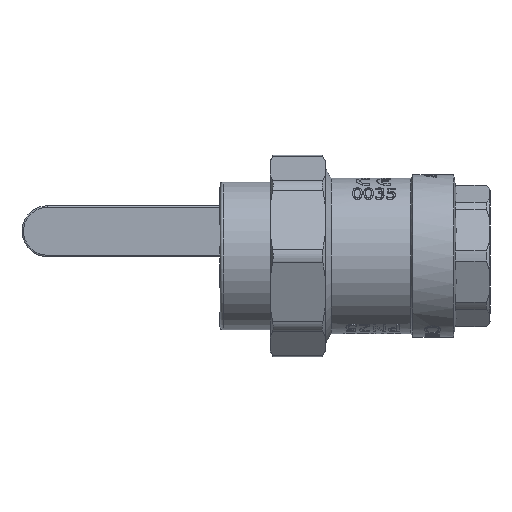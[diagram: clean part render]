
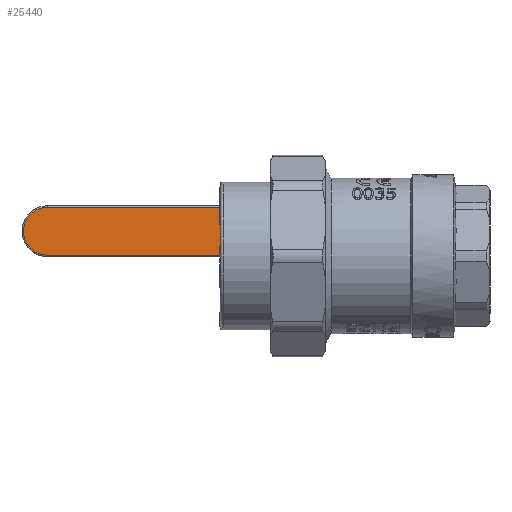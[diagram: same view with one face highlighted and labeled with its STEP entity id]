
A CAD part, front view. The second image highlights one B-rep face of the part: STEP entity #25440.
In plain terms, the highlighted planar face has unit normal (0, -1, 0).
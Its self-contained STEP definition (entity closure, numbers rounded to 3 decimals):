
#1865=CIRCLE('',#26738,8.125);
#3417=FACE_OUTER_BOUND('',#4897,.T.);
#4897=EDGE_LOOP('',(#22445,#22446,#22447,#22448));
#7206=LINE('',#49129,#9490);
#7208=LINE('',#49141,#9492);
#7228=LINE('',#49215,#9512);
#9490=VECTOR('',#31433,10.);
#9492=VECTOR('',#31447,10.);
#9512=VECTOR('',#31535,10.);
#11856=VERTEX_POINT('',#49119);
#11858=VERTEX_POINT('',#49125);
#11860=VERTEX_POINT('',#49131);
#11862=VERTEX_POINT('',#49137);
#15439=EDGE_CURVE('',#11856,#11858,#7206,.T.);
#15442=EDGE_CURVE('',#11858,#11860,#1865,.T.);
#15445=EDGE_CURVE('',#11860,#11862,#7208,.T.);
#15482=EDGE_CURVE('',#11862,#11856,#7228,.T.);
#22445=ORIENTED_EDGE('',*,*,#15439,.F.);
#22446=ORIENTED_EDGE('',*,*,#15482,.F.);
#22447=ORIENTED_EDGE('',*,*,#15445,.F.);
#22448=ORIENTED_EDGE('',*,*,#15442,.F.);
#24183=PLANE('',#26774);
#25440=ADVANCED_FACE('',(#3417),#24183,.T.);
#26738=AXIS2_PLACEMENT_3D('',#49135,#31440,#31441);
#26774=AXIS2_PLACEMENT_3D('',#49214,#31533,#31534);
#31433=DIRECTION('',(-1.,0.,0.));
#31440=DIRECTION('center_axis',(0.,1.,0.));
#31441=DIRECTION('ref_axis',(-1.,0.,0.));
#31447=DIRECTION('',(1.,0.,0.));
#31533=DIRECTION('center_axis',(0.,-1.,0.));
#31534=DIRECTION('ref_axis',(-1.,0.,0.));
#31535=DIRECTION('',(0.,0.,-1.));
#49119=CARTESIAN_POINT('',(-39.95,55.264,0.25));
#49125=CARTESIAN_POINT('',(-113.869,55.264,0.25));
#49129=CARTESIAN_POINT('',(-57.623,55.264,0.25));
#49131=CARTESIAN_POINT('',(-113.869,55.264,16.5));
#49135=CARTESIAN_POINT('Origin',(-113.869,55.264,8.375));
#49137=CARTESIAN_POINT('',(-39.95,55.264,16.5));
#49141=CARTESIAN_POINT('',(-57.623,55.264,16.5));
#49214=CARTESIAN_POINT('Origin',(-39.95,55.264,0.25));
#49215=CARTESIAN_POINT('',(-39.95,55.264,0.25));
